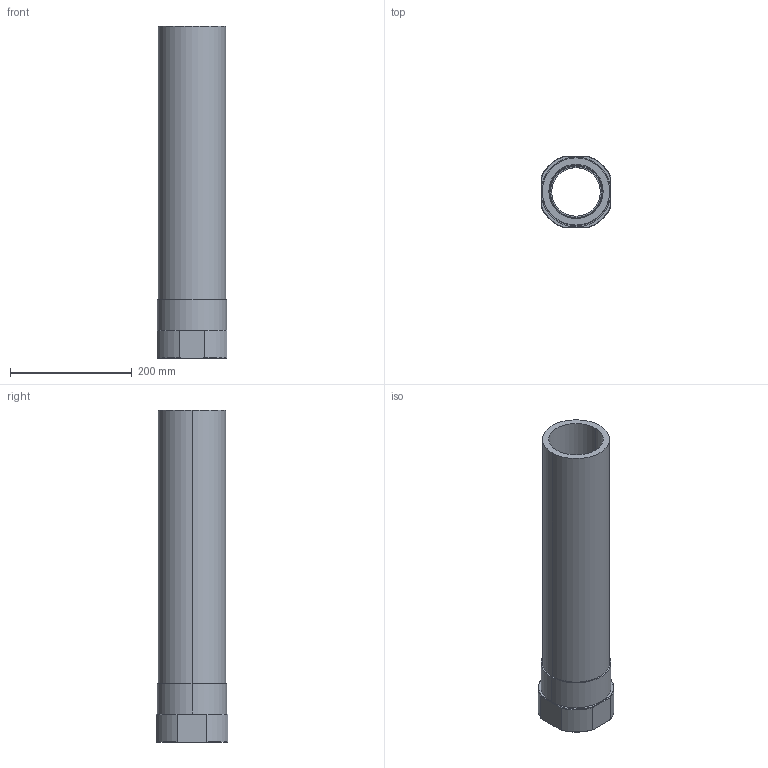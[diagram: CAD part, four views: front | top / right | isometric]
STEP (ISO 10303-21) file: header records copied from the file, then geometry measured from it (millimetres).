
FILE_DESCRIPTION (( 'STEP AP214' ), '1' );
FILE_NAME ('KP_C17-110-90FL.STEP', '2019-04-24T10:48:27', ( '' ), ( '' ), 'SwSTEP 2.0', 'SolidWorks 2018', '' );
FILE_SCHEMA (( 'AUTOMOTIVE_DESIGN' ));
Length unit declared in the file: millimetre
Products named in the file (4): KPKC17-110_90F; KP_C17-110-90FL; KPKSP-110; KPH110EC0500
Assembly tree (3 placements, depth 2):
  KP_C17-110-90FL
    KPKC17-110_90F
    KPH110EC0500
    KPKSP-110
Bounding box: 115 x 118 x 546 mm (x, y, z)
Volume: 2030168.7 mm3; surface area: 428265 mm2
Topology: 3 solids, 3 shells, 1035 faces, 2497 edges, 1472 vertices
Faces by surface type: plane 846, cylinder 163, cone 16, torus 10
Entity records: 29899 total; most frequent: DIRECTION 5473, CARTESIAN_POINT 5116, ORIENTED_EDGE 4994, EDGE_CURVE 2497, AXIS2_PLACEMENT_3D 1951, LINE 1571, VECTOR 1571, VERTEX_POINT 1472
